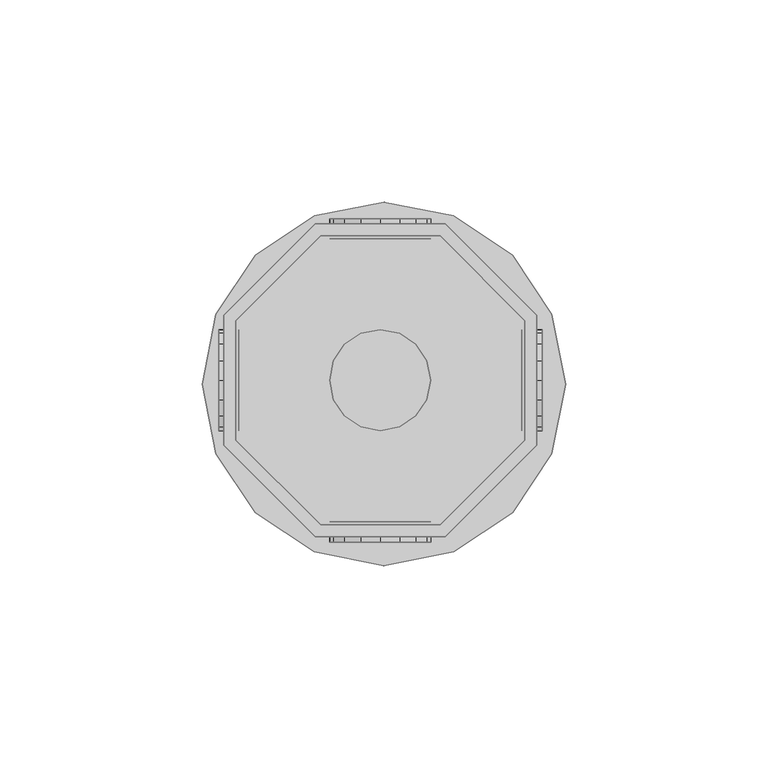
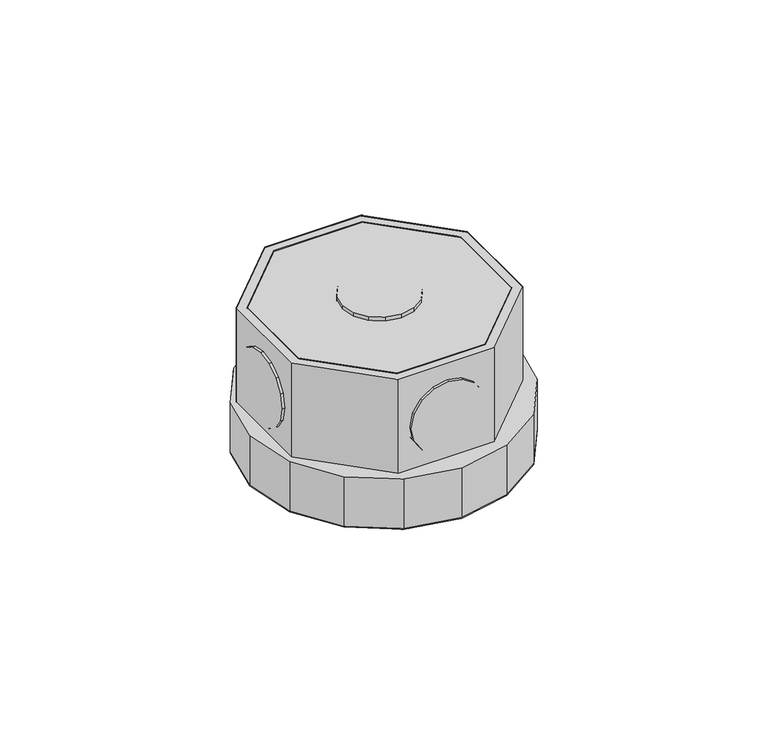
"""IFC4 building model written with IfcOpenShell, lengths in millimetres: light fixture geometry,  213694 :  213694."""

from ifc_helpers import new_model, si_unit, origin, place, context, project, spatial, triangles, source, transform, mapped, element, save


def light_fixture_4e95d427(model_context):
    return source(origin(), model_context, "Body", "Tessellation", [
        triangles([(2614.9999763, 17658.0000824, 2924.5999741), (2585.4000389, 17658.0000824, 2975.400071), (2585.4000389, 17658.0000824, 2924.5999741), (2614.9999763, 17658.0000824, 2975.400071), (2616.1999031, 17583.4999786, 2924.5999741), (2584.1001183, 17583.4999786, 2975.400071), (2584.1001183, 17583.4999786, 2924.5999741), (2616.1999031, 17583.4999786, 2975.400071), (2564.3998672, 17637.0002014, 2975.400071), (2564.3998672, 17637.0002014, 2924.5999741), (2638.899971, 17606.1997559, 2924.5999741), (2638.899971, 17606.1997559, 2975.400071), (2564.3998672, 17607.3996826, 2975.400071), (2564.3998672, 17607.3996826, 2924.5999741), (2638.899971, 17638.3001221, 2924.5999741), (2638.899971, 17638.3001221, 2975.400071), (2585.4000389, 17586.4997955, 2975.400071), (2585.4000389, 17586.4997955, 2924.5999741), (2616.1999031, 17660.9998993, 2924.5999741), (2616.1999031, 17660.9998993, 2975.400071), (2614.9999763, 17586.4997955, 2924.5999741), (2614.9999763, 17586.4997955, 2975.400071), (2584.1001183, 17660.9998993, 2975.400071), (2584.1001183, 17660.9998993, 2924.5999741), (2635.8998634, 17607.3996826, 2924.5999741), (2635.8998634, 17607.3996826, 2975.400071), (2561.4000504, 17638.3001221, 2975.400071), (2561.4000504, 17638.3001221, 2924.5999741), (2561.4000504, 17606.1997559, 2975.400071), (2635.8998634, 17637.0002014, 2975.400071), (2635.8998634, 17637.0002014, 2924.5999741), (2561.4000504, 17606.1997559, 2924.5999741), (2564.3998672, 17607.3996826, 2972.3999634), (2585.4000389, 17586.4997955, 2972.3999634), (2614.9999763, 17586.4997955, 2972.3999634), (2635.8998634, 17607.3996826, 2972.3999634), (2635.8998634, 17637.0002014, 2972.3999634), (2614.9999763, 17658.0000824, 2972.3999634), (2585.4000389, 17658.0000824, 2972.3999634), (2564.3998672, 17637.0002014, 2972.3999634), (2561.4000504, 17638.3001221, 2942.4000504), (2584.1001183, 17660.9998993, 2942.4000504), (2616.1999031, 17660.9998993, 2942.4000504), (2638.899971, 17638.3001221, 2942.4000504), (2638.899971, 17606.1997559, 2942.4000504), (2616.1999031, 17583.4999786, 2942.4000504), (2584.1001183, 17583.4999786, 2942.4000504), (2561.4000504, 17606.1997559, 2942.4000504), (2583.8001366, 17579.8002045, 2942.4000504), (2559.4998756, 17604.099884, 2942.4000504), (2569.199865, 17589.4996124, 2942.4000504), (2556.1000832, 17621.2999969, 2942.4000504), (2559.4998756, 17638.6001038, 2942.4000504), (2569.199865, 17653.2003754, 2942.4000504), (2583.8001366, 17662.8997833, 2942.4000504), (2601.0999527, 17666.2995758, 2942.4000504), (2618.3000656, 17662.8997833, 2942.4000504), (2642.6000359, 17638.6001038, 2942.4000504), (2632.9000465, 17653.2003754, 2942.4000504), (2601.0999527, 17576.3004181, 2942.4000504), (2618.3000656, 17579.8002045, 2942.4000504), (2632.9000465, 17589.4996124, 2942.4000504), (2642.6000359, 17604.099884, 2942.4000504), (2646.1001129, 17621.2999969, 2942.4000504), (2559.4998756, 17604.099884, 2924.5999741), (2583.8001366, 17579.8002045, 2924.5999741), (2569.199865, 17589.4996124, 2924.5999741), (2556.1000832, 17621.2999969, 2924.5999741), (2559.4998756, 17638.6001038, 2924.5999741), (2569.199865, 17653.2003754, 2924.5999741), (2583.8001366, 17662.8997833, 2924.5999741), (2601.0999527, 17666.2995758, 2924.5999741), (2618.3000656, 17662.8997833, 2924.5999741), (2642.6000359, 17638.6001038, 2924.5999741), (2632.9000465, 17653.2003754, 2924.5999741), (2601.0999527, 17576.3004181, 2924.5999741), (2618.3000656, 17579.8002045, 2924.5999741), (2632.9000465, 17589.4996124, 2924.5999741), (2642.6000359, 17604.099884, 2924.5999741), (2646.1001129, 17621.2999969, 2924.5999741), (2588.6001343, 17662.199826, 2952.6000092), (2595.4000099, 17662.199826, 2945.9001274), (2591.2999695, 17662.199826, 2948.5999626), (2587.6998985, 17662.199826, 2957.4000069), (2600.2000076, 17662.199826, 2944.8998978), (2588.6001343, 17662.199826, 2962.2000046), (2605.0000053, 17662.199826, 2945.9001274), (2591.2999695, 17662.199826, 2966.2000511), (2609.0000519, 17662.199826, 2948.5999626), (2595.4000099, 17662.199826, 2968.8998863), (2611.6998871, 17662.199826, 2952.6000092), (2600.2000076, 17662.199826, 2969.900116), (2612.7001167, 17662.199826, 2957.4000069), (2605.0000053, 17662.199826, 2968.8998863), (2611.6998871, 17662.199826, 2962.2000046), (2609.0000519, 17662.199826, 2966.2000511), (2595.4000099, 17657.2001312, 2945.9001274), (2588.6001343, 17657.2001312, 2952.6000092), (2591.2999695, 17657.2001312, 2948.5999626), (2600.2000076, 17657.2001312, 2944.8998978), (2587.6998985, 17657.2001312, 2957.4000069), (2605.0000053, 17657.2001312, 2945.9001274), (2588.6001343, 17657.2001312, 2962.2000046), (2609.0000519, 17657.2001312, 2948.5999626), (2591.2999695, 17657.2001312, 2966.2000511), (2595.4000099, 17657.2001312, 2968.8998863), (2611.6998871, 17657.2001312, 2952.6000092), (2600.2000076, 17657.2001312, 2969.900116), (2612.7001167, 17657.2001312, 2957.4000069), (2605.0000053, 17657.2001312, 2968.8998863), (2611.6998871, 17657.2001312, 2962.2000046), (2609.0000519, 17657.2001312, 2966.2000511), (2588.6001343, 17587.1997528, 2952.6000092), (2595.4000099, 17587.1997528, 2945.9001274), (2591.2999695, 17587.1997528, 2948.5999626), (2587.6998985, 17587.1997528, 2957.4000069), (2600.2000076, 17587.1997528, 2944.8998978), (2588.6001343, 17587.1997528, 2962.2000046), (2605.0000053, 17587.1997528, 2945.9001274), (2591.2999695, 17587.1997528, 2966.2000511), (2609.0000519, 17587.1997528, 2948.5999626), (2595.4000099, 17587.1997528, 2968.8998863), (2611.6998871, 17587.1997528, 2952.6000092), (2600.2000076, 17587.1997528, 2969.900116), (2612.7001167, 17587.1997528, 2957.4000069), (2605.0000053, 17587.1997528, 2968.8998863), (2611.6998871, 17587.1997528, 2962.2000046), (2609.0000519, 17587.1997528, 2966.2000511), (2595.4000099, 17582.200058, 2945.9001274), (2588.6001343, 17582.200058, 2952.6000092), (2591.2999695, 17582.200058, 2948.5999626), (2600.2000076, 17582.200058, 2944.8998978), (2587.6998985, 17582.200058, 2957.4000069), (2605.0000053, 17582.200058, 2945.9001274), (2588.6001343, 17582.200058, 2962.2000046), (2609.0000519, 17582.200058, 2948.5999626), (2591.2999695, 17582.200058, 2966.2000511), (2595.4000099, 17582.200058, 2968.8998863), (2611.6998871, 17582.200058, 2952.6000092), (2600.2000076, 17582.200058, 2969.900116), (2612.7001167, 17582.200058, 2957.4000069), (2605.0000053, 17582.200058, 2968.8998863), (2611.6998871, 17582.200058, 2962.2000046), (2609.0000519, 17582.200058, 2966.2000511), (2565.2001091, 17617.400235, 2945.9001274), (2565.2001091, 17610.6994812, 2952.6000092), (2565.2001091, 17613.4004791, 2948.5999626), (2565.2001091, 17622.199942, 2944.8998978), (2565.2001091, 17609.6995422, 2957.4000069), (2565.2001091, 17626.999649, 2945.9001274), (2565.2001091, 17610.6994812, 2962.2000046), (2565.2001091, 17631.1005615, 2948.5999626), (2565.2001091, 17613.4004791, 2966.2000511), (2565.2001091, 17617.400235, 2968.8998863), (2565.2001091, 17633.8003967, 2952.6000092), (2565.2001091, 17622.199942, 2969.900116), (2565.2001091, 17634.7003418, 2957.4000069), (2565.2001091, 17626.999649, 2968.8998863), (2565.2001091, 17633.8003967, 2962.2000046), (2565.2001091, 17631.1005615, 2966.2000511), (2560.2001236, 17610.6994812, 2952.6000092), (2560.2001236, 17617.400235, 2945.9001274), (2560.2001236, 17613.4004791, 2948.5999626), (2560.2001236, 17609.6995422, 2957.4000069), (2560.2001236, 17622.199942, 2944.8998978), (2560.2001236, 17610.6994812, 2962.2000046), (2560.2001236, 17626.999649, 2945.9001274), (2560.2001236, 17613.4004791, 2966.2000511), (2560.2001236, 17631.1005615, 2948.5999626), (2560.2001236, 17617.400235, 2968.8998863), (2560.2001236, 17633.8003967, 2952.6000092), (2560.2001236, 17622.199942, 2969.900116), (2560.2001236, 17634.7003418, 2957.4000069), (2560.2001236, 17626.999649, 2968.8998863), (2560.2001236, 17633.8003967, 2962.2000046), (2560.2001236, 17631.1005615, 2966.2000511), (2640.1998917, 17617.400235, 2945.9001274), (2640.1998917, 17610.6994812, 2952.6000092), (2640.1998917, 17613.4004791, 2948.5999626), (2640.1998917, 17622.199942, 2944.8998978), (2640.1998917, 17609.6995422, 2957.4000069), (2640.1998917, 17626.999649, 2945.9001274), (2640.1998917, 17610.6994812, 2962.2000046), (2640.1998917, 17631.1005615, 2948.5999626), (2640.1998917, 17613.4004791, 2966.2000511), (2640.1998917, 17617.400235, 2968.8998863), (2640.1998917, 17633.8003967, 2952.6000092), (2640.1998917, 17622.199942, 2969.900116), (2640.1998917, 17634.7003418, 2957.4000069), (2640.1998917, 17626.999649, 2968.8998863), (2640.1998917, 17633.8003967, 2962.2000046), (2640.1998917, 17631.1005615, 2966.2000511), (2635.1999062, 17610.6994812, 2952.6000092), (2635.1999062, 17617.400235, 2945.9001274), (2635.1999062, 17613.4004791, 2948.5999626), (2635.1999062, 17609.6995422, 2957.4000069), (2635.1999062, 17622.199942, 2944.8998978), (2635.1999062, 17610.6994812, 2962.2000046), (2635.1999062, 17626.999649, 2945.9001274), (2635.1999062, 17613.4004791, 2966.2000511), (2635.1999062, 17631.1005615, 2948.5999626), (2635.1999062, 17617.400235, 2968.8998863), (2635.1999062, 17633.8003967, 2952.6000092), (2635.1999062, 17622.199942, 2969.900116), (2635.1999062, 17634.7003418, 2957.4000069), (2635.1999062, 17626.999649, 2968.8998863), (2635.1999062, 17633.8003967, 2962.2000046), (2635.1999062, 17631.1005615, 2966.2000511), (2595.4000099, 17610.6994812, 2976.9999733), (2588.6001343, 17617.400235, 2976.9999733), (2591.2999695, 17613.4004791, 2976.9999733), (2587.6998985, 17622.199942, 2976.9999733), (2600.2000076, 17609.6995422, 2976.9999733), (2588.6001343, 17626.999649, 2976.9999733), (2605.0000053, 17610.6994812, 2976.9999733), (2591.2999695, 17631.1005615, 2976.9999733), (2609.0000519, 17613.4004791, 2976.9999733), (2595.4000099, 17633.8003967, 2976.9999733), (2611.6998871, 17617.400235, 2976.9999733), (2600.2000076, 17634.7003418, 2976.9999733), (2612.7001167, 17622.199942, 2976.9999733), (2605.0000053, 17633.8003967, 2976.9999733), (2611.6998871, 17626.999649, 2976.9999733), (2609.0000519, 17631.1005615, 2976.9999733), (2588.6001343, 17617.400235, 2971.9999878), (2595.4000099, 17610.6994812, 2971.9999878), (2591.2999695, 17613.4004791, 2971.9999878), (2587.6998985, 17622.199942, 2971.9999878), (2600.2000076, 17609.6995422, 2971.9999878), (2588.6001343, 17626.999649, 2971.9999878), (2605.0000053, 17610.6994812, 2971.9999878), (2591.2999695, 17631.1005615, 2971.9999878), (2609.0000519, 17613.4004791, 2971.9999878), (2595.4000099, 17633.8003967, 2971.9999878), (2611.6998871, 17617.400235, 2971.9999878), (2600.2000076, 17634.7003418, 2971.9999878), (2612.7001167, 17622.199942, 2971.9999878), (2605.0000053, 17633.8003967, 2971.9999878), (2611.6998871, 17626.999649, 2971.9999878), (2609.0000519, 17631.1005615, 2971.9999878)], [[1, 2, 3], [2, 1, 4], [5, 6, 7], [6, 5, 8], [3, 9, 10], [9, 3, 2], [11, 8, 5], [8, 11, 12], [10, 13, 14], [13, 10, 9], [15, 12, 11], [12, 15, 16], [14, 17, 18], [17, 14, 13], [19, 16, 15], [16, 19, 20], [17, 21, 18], [21, 17, 22], [23, 19, 24], [19, 23, 20], [22, 25, 21], [25, 22, 26], [27, 24, 28], [24, 27, 23], [6, 13, 29], [29, 13, 27], [27, 13, 9], [27, 9, 23], [23, 9, 2], [23, 2, 4], [23, 4, 20], [20, 4, 30], [8, 17, 6], [6, 17, 13], [17, 8, 22], [12, 22, 8], [22, 12, 26], [30, 26, 12], [16, 30, 12], [20, 30, 16], [30, 1, 31], [1, 30, 4], [6, 32, 7], [32, 6, 29], [32, 14, 7], [28, 14, 32], [14, 28, 10], [24, 10, 28], [10, 24, 3], [1, 3, 24], [19, 1, 24], [31, 1, 19], [7, 18, 5], [14, 18, 7], [5, 18, 21], [5, 21, 11], [11, 21, 25], [11, 25, 31], [11, 31, 15], [15, 31, 19], [26, 31, 25], [31, 26, 30], [29, 28, 32], [28, 29, 27], [17, 33, 34], [33, 17, 13], [35, 17, 34], [17, 35, 22], [36, 22, 35], [22, 36, 26], [37, 26, 36], [26, 37, 30], [38, 30, 37], [30, 38, 4], [2, 38, 39], [38, 2, 4], [17, 9, 13], [9, 17, 22], [9, 22, 2], [2, 22, 26], [2, 26, 4], [4, 26, 30], [13, 40, 33], [40, 13, 9], [40, 34, 33], [35, 34, 40], [35, 40, 39], [35, 39, 36], [36, 39, 38], [36, 38, 37], [9, 39, 40], [39, 9, 2], [24, 41, 28], [41, 24, 42], [19, 42, 24], [42, 19, 43], [44, 19, 15], [19, 44, 43], [45, 15, 11], [15, 45, 44], [46, 11, 5], [11, 46, 45], [47, 5, 7], [5, 47, 46], [32, 47, 7], [47, 32, 48], [28, 48, 32], [48, 28, 41], [49, 50, 51], [48, 50, 49], [50, 48, 52], [41, 52, 48], [52, 41, 53], [53, 41, 54], [42, 54, 41], [54, 42, 55], [55, 42, 43], [55, 43, 56], [56, 43, 57], [57, 43, 44], [57, 44, 58], [57, 58, 59], [47, 49, 60], [49, 47, 48], [47, 60, 46], [61, 46, 60], [46, 61, 62], [46, 62, 45], [45, 62, 63], [44, 45, 63], [44, 63, 64], [44, 64, 58], [65, 66, 67], [66, 65, 32], [68, 32, 65], [32, 68, 28], [28, 68, 69], [70, 28, 69], [28, 70, 24], [71, 24, 70], [19, 24, 71], [19, 71, 72], [73, 19, 72], [19, 73, 15], [74, 15, 73], [74, 73, 75], [76, 66, 7], [32, 7, 66], [5, 76, 7], [76, 5, 77], [77, 5, 78], [11, 78, 5], [78, 11, 79], [79, 11, 15], [79, 15, 80], [80, 15, 74], [57, 75, 73], [75, 57, 59], [56, 73, 72], [73, 56, 57], [55, 72, 71], [72, 55, 56], [54, 71, 70], [71, 54, 55], [53, 70, 69], [70, 53, 54], [52, 69, 68], [69, 52, 53], [50, 68, 65], [68, 50, 52], [51, 65, 67], [65, 51, 50], [66, 51, 67], [51, 66, 49], [76, 49, 66], [49, 76, 60], [77, 60, 76], [60, 77, 61], [78, 61, 77], [61, 78, 62], [79, 62, 78], [62, 79, 63], [80, 63, 79], [63, 80, 64], [75, 58, 74], [58, 75, 59], [74, 64, 80], [64, 74, 58], [81, 82, 83], [82, 81, 84], [85, 82, 84], [85, 84, 86], [87, 85, 86], [87, 86, 88], [87, 88, 89], [89, 88, 90], [89, 90, 91], [91, 90, 92], [91, 92, 93], [93, 92, 94], [93, 94, 95], [95, 94, 96], [97, 98, 99], [98, 97, 100], [101, 98, 100], [101, 100, 102], [103, 101, 102], [103, 102, 104], [103, 104, 105], [105, 104, 106], [106, 104, 107], [106, 107, 108], [108, 107, 109], [108, 109, 110], [110, 109, 111], [110, 111, 112], [87, 104, 102], [104, 87, 89], [85, 102, 100], [102, 85, 87], [82, 100, 97], [100, 82, 85], [83, 97, 99], [97, 83, 82], [98, 83, 99], [83, 98, 81], [101, 81, 98], [81, 101, 84], [103, 84, 101], [84, 103, 86], [105, 86, 103], [86, 105, 88], [106, 88, 105], [88, 106, 90], [108, 90, 106], [90, 108, 92], [110, 92, 108], [92, 110, 94], [112, 94, 110], [94, 112, 96], [95, 112, 111], [112, 95, 96], [93, 111, 109], [111, 93, 95], [89, 107, 104], [107, 89, 91], [91, 109, 107], [109, 91, 93], [113, 114, 115], [114, 113, 116], [117, 114, 116], [117, 116, 118], [119, 117, 118], [119, 118, 120], [119, 120, 121], [121, 120, 122], [121, 122, 123], [123, 122, 124], [123, 124, 125], [125, 124, 126], [125, 126, 127], [127, 126, 128], [129, 130, 131], [130, 129, 132], [133, 130, 132], [133, 132, 134], [135, 133, 134], [135, 134, 136], [135, 136, 137], [137, 136, 138], [138, 136, 139], [138, 139, 140], [140, 139, 141], [140, 141, 142], [142, 141, 143], [142, 143, 144], [119, 136, 134], [136, 119, 121], [117, 134, 132], [134, 117, 119], [114, 132, 129], [132, 114, 117], [115, 129, 131], [129, 115, 114], [130, 115, 131], [115, 130, 113], [133, 113, 130], [113, 133, 116], [135, 116, 133], [116, 135, 118], [137, 118, 135], [118, 137, 120], [138, 120, 137], [120, 138, 122], [140, 122, 138], [122, 140, 124], [142, 124, 140], [124, 142, 126], [144, 126, 142], [126, 144, 128], [127, 144, 143], [144, 127, 128], [125, 143, 141], [143, 125, 127], [121, 139, 136], [139, 121, 123], [123, 141, 139], [141, 123, 125], [145, 146, 147], [146, 145, 148], [149, 146, 148], [149, 148, 150], [151, 149, 150], [151, 150, 152], [151, 152, 153], [153, 152, 154], [154, 152, 155], [154, 155, 156], [156, 155, 157], [156, 157, 158], [158, 157, 159], [158, 159, 160], [161, 162, 163], [162, 161, 164], [165, 162, 164], [165, 164, 166], [167, 165, 166], [167, 166, 168], [169, 167, 168], [169, 168, 170], [169, 170, 171], [171, 170, 172], [171, 172, 173], [173, 172, 174], [173, 174, 175], [175, 174, 176], [158, 176, 174], [176, 158, 160], [156, 174, 172], [174, 156, 158], [154, 172, 170], [172, 154, 156], [153, 170, 168], [170, 153, 154], [151, 168, 166], [168, 151, 153], [149, 166, 164], [166, 149, 151], [146, 164, 161], [164, 146, 149], [147, 161, 163], [161, 147, 146], [162, 147, 163], [147, 162, 145], [165, 145, 162], [145, 165, 148], [167, 148, 165], [148, 167, 150], [169, 150, 167], [150, 169, 152], [171, 152, 169], [152, 171, 155], [173, 155, 171], [155, 173, 157], [176, 159, 175], [159, 176, 160], [175, 157, 173], [157, 175, 159], [177, 178, 179], [178, 177, 180], [181, 178, 180], [181, 180, 182], [183, 181, 182], [183, 182, 184], [183, 184, 185], [185, 184, 186], [186, 184, 187], [186, 187, 188], [188, 187, 189], [188, 189, 190], [190, 189, 191], [190, 191, 192], [193, 194, 195], [194, 193, 196], [197, 194, 196], [197, 196, 198], [199, 197, 198], [199, 198, 200], [201, 199, 200], [201, 200, 202], [201, 202, 203], [203, 202, 204], [203, 204, 205], [205, 204, 206], [205, 206, 207], [207, 206, 208], [190, 208, 206], [208, 190, 192], [188, 206, 204], [206, 188, 190], [186, 204, 202], [204, 186, 188], [185, 202, 200], [202, 185, 186], [183, 200, 198], [200, 183, 185], [181, 198, 196], [198, 181, 183], [178, 196, 193], [196, 178, 181], [179, 193, 195], [193, 179, 178], [194, 179, 195], [179, 194, 177], [197, 177, 194], [177, 197, 180], [199, 180, 197], [180, 199, 182], [201, 182, 199], [182, 201, 184], [203, 184, 201], [184, 203, 187], [205, 187, 203], [187, 205, 189], [208, 191, 207], [191, 208, 192], [207, 189, 205], [189, 207, 191], [209, 210, 211], [212, 210, 209], [212, 209, 213], [214, 212, 213], [214, 213, 215], [216, 214, 215], [216, 215, 217], [216, 217, 218], [218, 217, 219], [218, 219, 220], [220, 219, 221], [220, 221, 222], [222, 221, 223], [222, 223, 224], [225, 226, 227], [226, 225, 228], [229, 226, 228], [229, 228, 230], [231, 229, 230], [231, 230, 232], [231, 232, 233], [233, 232, 234], [233, 234, 235], [235, 234, 236], [235, 236, 237], [237, 236, 238], [237, 238, 239], [239, 238, 240], [222, 240, 238], [240, 222, 224], [220, 238, 236], [238, 220, 222], [218, 236, 234], [236, 218, 220], [216, 234, 232], [234, 216, 218], [214, 232, 230], [232, 214, 216], [212, 230, 228], [230, 212, 214], [210, 228, 225], [228, 210, 212], [211, 225, 227], [225, 211, 210], [226, 211, 227], [211, 226, 209], [229, 209, 226], [209, 229, 213], [231, 213, 229], [213, 231, 215], [233, 215, 231], [215, 233, 217], [235, 217, 233], [217, 235, 219], [237, 219, 235], [219, 237, 221], [240, 223, 239], [223, 240, 224], [239, 221, 237], [221, 239, 223]], closed=False),
    ])


if __name__ == "__main__":
    model = new_model("IFC4")
    model_context = context("Model", 3, world=origin())
    ifc_project = project(units=[si_unit("LENGTHUNIT", "METRE", prefix="MILLI")], contexts=[model_context])
    site = spatial("IfcSite", under=ifc_project)
    building = spatial("IfcBuilding", under=site)
    placement = place(None, origin())
    light_fixture_shape = light_fixture_4e95d427(model_context)
    element("IfcLightFixture", 1, ObjectType=" 213694 :  213694", at=placement, inside=building, context=model_context, shape_type="MappedRepresentation", body=[
        mapped(light_fixture_shape, transform((0.0, 0.0, 0.0), x_axis=(1.0, 0.0, 0.0), y_axis=(0.0, 1.0, 0.0), z_axis=(0.0, 0.0, 1.0))),
    ])
    save(model, "model.ifc")
